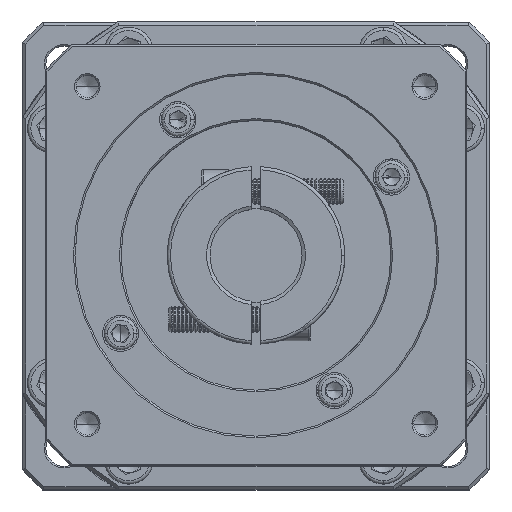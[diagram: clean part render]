
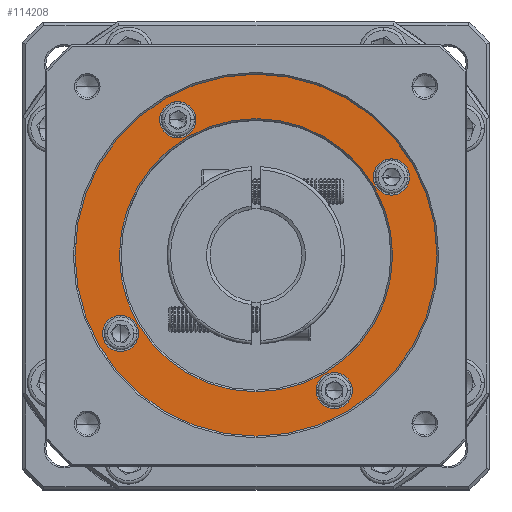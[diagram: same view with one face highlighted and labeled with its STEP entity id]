
A CAD part, top view. The second image highlights one B-rep face of the part: STEP entity #114208.
In plain terms, the highlighted planar face has unit normal (0, 0, 1).
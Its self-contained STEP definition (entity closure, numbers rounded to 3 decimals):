
#610 = AXIS2_PLACEMENT_3D ( 'NONE', #54856, #54446, #121228 ) ;
#837 = CIRCLE ( 'NONE', #19487, 5.5 ) ;
#881 = ORIENTED_EDGE ( 'NONE', *, *, #88877, .T. ) ;
#1371 = EDGE_CURVE ( 'NONE', #3274, #60575, #120971, .T. ) ;
#1896 = CIRCLE ( 'NONE', #45011, 5.5 ) ;
#2281 = ORIENTED_EDGE ( 'NONE', *, *, #120803, .T. ) ;
#3225 = CARTESIAN_POINT ( 'NONE',  ( -152.016, 45.04, 13.931 ) ) ;
#3274 = VERTEX_POINT ( 'NONE', #70532 ) ;
#4230 = EDGE_CURVE ( 'NONE', #67717, #46018, #1896, .T. ) ;
#4645 = AXIS2_PLACEMENT_3D ( 'NONE', #100619, #62527, #52628 ) ;
#6944 = EDGE_CURVE ( 'NONE', #81744, #79319, #34789, .T. ) ;
#8035 = AXIS2_PLACEMENT_3D ( 'NONE', #54154, #80401, #81238 ) ;
#8590 = ORIENTED_EDGE ( 'NONE', *, *, #90171, .T. ) ;
#8972 = DIRECTION ( 'NONE',  ( 1., 0., 0. ) ) ;
#9863 = DIRECTION ( 'NONE',  ( 0., 0., -1. ) ) ;
#10862 = VERTEX_POINT ( 'NONE', #107535 ) ;
#12129 = CARTESIAN_POINT ( 'NONE',  ( -140.13, 109.926, 13.931 ) ) ;
#13441 = DIRECTION ( 'NONE',  ( 0., 0., -1. ) ) ;
#13946 = EDGE_LOOP ( 'NONE', ( #881, #61135 ) ) ;
#13977 = EDGE_CURVE ( 'NONE', #60575, #3274, #101588, .T. ) ;
#15715 = EDGE_CURVE ( 'NONE', #79319, #81744, #30282, .T. ) ;
#16796 = DIRECTION ( 'NONE',  ( 0., 0., -1. ) ) ;
#19487 = AXIS2_PLACEMENT_3D ( 'NONE', #106074, #39628, #69148 ) ;
#19523 = CARTESIAN_POINT ( 'NONE',  ( -134.63, 109.926, 13.931 ) ) ;
#21883 = AXIS2_PLACEMENT_3D ( 'NONE', #19523, #37171, #121637 ) ;
#29021 = AXIS2_PLACEMENT_3D ( 'NONE', #65160, #16796, #8972 ) ;
#29473 = ORIENTED_EDGE ( 'NONE', *, *, #13977, .T. ) ;
#30282 = CIRCLE ( 'NONE', #60819, 41.5 ) ;
#30374 = FACE_BOUND ( 'NONE', #59197, .T. ) ;
#34487 = DIRECTION ( 'NONE',  ( 1., 0., 0. ) ) ;
#34554 = EDGE_LOOP ( 'NONE', ( #44884, #68130 ) ) ;
#34789 = CIRCLE ( 'NONE', #29021, 41.5 ) ;
#35143 = CARTESIAN_POINT ( 'NONE',  ( -110.88, 68.79, 13.931 ) ) ;
#35443 = CARTESIAN_POINT ( 'NONE',  ( -157.516, 45.04, 13.931 ) ) ;
#36355 = CARTESIAN_POINT ( 'NONE',  ( -152.016, 45.04, 13.931 ) ) ;
#37171 = DIRECTION ( 'NONE',  ( 0., 0., -1. ) ) ;
#38138 = DIRECTION ( 'NONE',  ( 1., 0., 0. ) ) ;
#39530 = EDGE_LOOP ( 'NONE', ( #92325, #29473 ) ) ;
#39628 = DIRECTION ( 'NONE',  ( 0., 0., -1. ) ) ;
#40558 = CARTESIAN_POINT ( 'NONE',  ( -92.63, 27.654, 13.931 ) ) ;
#42629 = DIRECTION ( 'NONE',  ( 0., 0., -1. ) ) ;
#44884 = ORIENTED_EDGE ( 'NONE', *, *, #104125, .T. ) ;
#45011 = AXIS2_PLACEMENT_3D ( 'NONE', #65261, #9863, #38138 ) ;
#46018 = VERTEX_POINT ( 'NONE', #69728 ) ;
#46988 = PLANE ( 'NONE',  #610 ) ;
#49803 = CIRCLE ( 'NONE', #113914, 5.5 ) ;
#51124 = ORIENTED_EDGE ( 'NONE', *, *, #60691, .T. ) ;
#52628 = DIRECTION ( 'NONE',  ( 1., 0., 0. ) ) ;
#54154 = CARTESIAN_POINT ( 'NONE',  ( -110.88, 68.79, 13.931 ) ) ;
#54183 = CARTESIAN_POINT ( 'NONE',  ( -64.243, 92.54, 13.931 ) ) ;
#54446 = DIRECTION ( 'NONE',  ( 0., 0., 1. ) ) ;
#54856 = CARTESIAN_POINT ( 'NONE',  ( -110.88, 68.79, 13.931 ) ) ;
#56052 = DIRECTION ( 'NONE',  ( 1., 0., 0. ) ) ;
#57222 = ORIENTED_EDGE ( 'NONE', *, *, #15715, .T. ) ;
#58757 = CIRCLE ( 'NONE', #103718, 5.5 ) ;
#59197 = EDGE_LOOP ( 'NONE', ( #68882, #57222 ) ) ;
#60136 = DIRECTION ( 'NONE',  ( 0., 0., -1. ) ) ;
#60575 = VERTEX_POINT ( 'NONE', #74123 ) ;
#60641 = CIRCLE ( 'NONE', #113664, 5.5 ) ;
#60691 = EDGE_CURVE ( 'NONE', #105264, #63968, #837, .T. ) ;
#60819 = AXIS2_PLACEMENT_3D ( 'NONE', #35143, #119227, #118407 ) ;
#61054 = VERTEX_POINT ( 'NONE', #94501 ) ;
#61135 = ORIENTED_EDGE ( 'NONE', *, *, #4230, .T. ) ;
#62527 = DIRECTION ( 'NONE',  ( 0., 0., 1. ) ) ;
#63968 = VERTEX_POINT ( 'NONE', #84472 ) ;
#65160 = CARTESIAN_POINT ( 'NONE',  ( -110.88, 68.79, 13.931 ) ) ;
#65261 = CARTESIAN_POINT ( 'NONE',  ( -134.63, 109.926, 13.931 ) ) ;
#67081 = FACE_BOUND ( 'NONE', #34554, .T. ) ;
#67717 = VERTEX_POINT ( 'NONE', #12129 ) ;
#68025 = DIRECTION ( 'NONE',  ( 1., 0., 0. ) ) ;
#68130 = ORIENTED_EDGE ( 'NONE', *, *, #78943, .T. ) ;
#68882 = ORIENTED_EDGE ( 'NONE', *, *, #6944, .T. ) ;
#69148 = DIRECTION ( 'NONE',  ( 1., 0., 0. ) ) ;
#69728 = CARTESIAN_POINT ( 'NONE',  ( -129.13, 109.926, 13.931 ) ) ;
#70133 = CARTESIAN_POINT ( 'NONE',  ( -69.743, 92.54, 13.931 ) ) ;
#70532 = CARTESIAN_POINT ( 'NONE',  ( -55.88, 68.79, 13.931 ) ) ;
#71258 = ORIENTED_EDGE ( 'NONE', *, *, #82404, .T. ) ;
#72968 = FACE_BOUND ( 'NONE', #84871, .T. ) ;
#74123 = CARTESIAN_POINT ( 'NONE',  ( -165.88, 68.79, 13.931 ) ) ;
#75819 = CIRCLE ( 'NONE', #78590, 5.5 ) ;
#75956 = CARTESIAN_POINT ( 'NONE',  ( -152.38, 68.79, 13.931 ) ) ;
#78533 = DIRECTION ( 'NONE',  ( 1., 0., 0. ) ) ;
#78590 = AXIS2_PLACEMENT_3D ( 'NONE', #3225, #13441, #68025 ) ;
#78943 = EDGE_CURVE ( 'NONE', #10862, #81790, #96538, .T. ) ;
#79319 = VERTEX_POINT ( 'NONE', #75956 ) ;
#79365 = CARTESIAN_POINT ( 'NONE',  ( -69.743, 92.54, 13.931 ) ) ;
#80401 = DIRECTION ( 'NONE',  ( 0., 0., 1. ) ) ;
#81238 = DIRECTION ( 'NONE',  ( 1., 0., 0. ) ) ;
#81744 = VERTEX_POINT ( 'NONE', #110828 ) ;
#81790 = VERTEX_POINT ( 'NONE', #54183 ) ;
#82404 = EDGE_CURVE ( 'NONE', #94873, #61054, #60641, .T. ) ;
#83734 = EDGE_LOOP ( 'NONE', ( #2281, #51124 ) ) ;
#84472 = CARTESIAN_POINT ( 'NONE',  ( -81.63, 27.654, 13.931 ) ) ;
#84871 = EDGE_LOOP ( 'NONE', ( #8590, #71258 ) ) ;
#87665 = FACE_BOUND ( 'NONE', #13946, .T. ) ;
#88877 = EDGE_CURVE ( 'NONE', #46018, #67717, #101399, .T. ) ;
#90171 = EDGE_CURVE ( 'NONE', #61054, #94873, #75819, .T. ) ;
#90314 = CARTESIAN_POINT ( 'NONE',  ( -87.13, 27.654, 13.931 ) ) ;
#92325 = ORIENTED_EDGE ( 'NONE', *, *, #1371, .T. ) ;
#94501 = CARTESIAN_POINT ( 'NONE',  ( -146.516, 45.04, 13.931 ) ) ;
#94873 = VERTEX_POINT ( 'NONE', #35443 ) ;
#96538 = CIRCLE ( 'NONE', #102201, 5.5 ) ;
#100619 = CARTESIAN_POINT ( 'NONE',  ( -110.88, 68.79, 13.931 ) ) ;
#101399 = CIRCLE ( 'NONE', #21883, 5.5 ) ;
#101588 = CIRCLE ( 'NONE', #8035, 55. ) ;
#102201 = AXIS2_PLACEMENT_3D ( 'NONE', #79365, #60136, #78533 ) ;
#103216 = DIRECTION ( 'NONE',  ( 0., 0., -1. ) ) ;
#103718 = AXIS2_PLACEMENT_3D ( 'NONE', #70133, #42629, #117700 ) ;
#104125 = EDGE_CURVE ( 'NONE', #81790, #10862, #58757, .T. ) ;
#105264 = VERTEX_POINT ( 'NONE', #40558 ) ;
#106074 = CARTESIAN_POINT ( 'NONE',  ( -87.13, 27.654, 13.931 ) ) ;
#107535 = CARTESIAN_POINT ( 'NONE',  ( -75.243, 92.54, 13.931 ) ) ;
#110828 = CARTESIAN_POINT ( 'NONE',  ( -69.38, 68.79, 13.931 ) ) ;
#111155 = FACE_BOUND ( 'NONE', #83734, .T. ) ;
#113664 = AXIS2_PLACEMENT_3D ( 'NONE', #36355, #103216, #56052 ) ;
#113914 = AXIS2_PLACEMENT_3D ( 'NONE', #90314, #118192, #34487 ) ;
#114208 = ADVANCED_FACE ( 'NONE', ( #115561, #30374, #67081, #111155, #87665, #72968 ), #46988, .T. ) ;
#115561 = FACE_OUTER_BOUND ( 'NONE', #39530, .T. ) ;
#117700 = DIRECTION ( 'NONE',  ( 1., 0., 0. ) ) ;
#118192 = DIRECTION ( 'NONE',  ( 0., 0., -1. ) ) ;
#118407 = DIRECTION ( 'NONE',  ( 1., 0., 0. ) ) ;
#119227 = DIRECTION ( 'NONE',  ( 0., 0., -1. ) ) ;
#120803 = EDGE_CURVE ( 'NONE', #63968, #105264, #49803, .T. ) ;
#120971 = CIRCLE ( 'NONE', #4645, 55. ) ;
#121228 = DIRECTION ( 'NONE',  ( 1., 0., 0. ) ) ;
#121637 = DIRECTION ( 'NONE',  ( 1., 0., 0. ) ) ;
